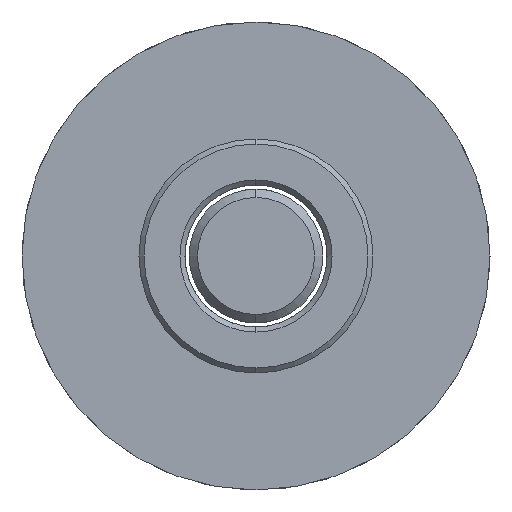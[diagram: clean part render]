
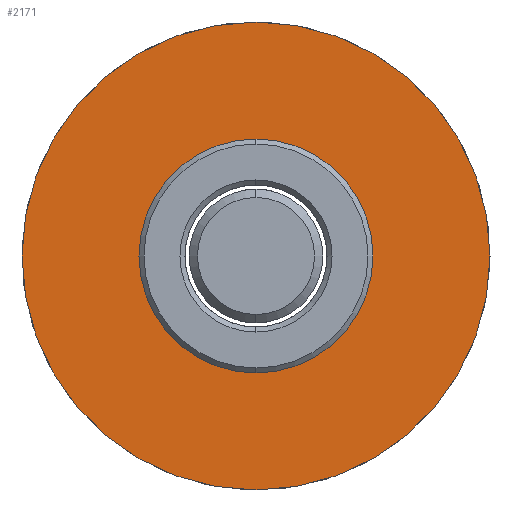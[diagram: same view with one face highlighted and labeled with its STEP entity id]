
A CAD part, left-side view. The second image highlights one B-rep face of the part: STEP entity #2171.
In plain terms, the highlighted planar face has unit normal (-1, 0, 0).
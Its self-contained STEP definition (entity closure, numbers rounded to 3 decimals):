
#76 = FACE_BOUND ( 'NONE', #2484, .T. ) ;
#245 = CIRCLE ( 'NONE', #2219, 7. ) ;
#292 = CIRCLE ( 'NONE', #2945, 14. ) ;
#382 = CARTESIAN_POINT ( 'NONE',  ( 4., 0., 0. ) ) ;
#537 = ORIENTED_EDGE ( 'NONE', *, *, #733, .F. ) ;
#559 = CIRCLE ( 'NONE', #1393, 14. ) ;
#630 = DIRECTION ( 'NONE',  ( 0., 0., 1. ) ) ;
#733 = EDGE_CURVE ( 'NONE', #1696, #2803, #1225, .T. ) ;
#980 = EDGE_CURVE ( 'NONE', #1181, #1990, #292, .T. ) ;
#1017 = DIRECTION ( 'NONE',  ( 1., 0., 0. ) ) ;
#1020 = AXIS2_PLACEMENT_3D ( 'NONE', #1304, #2324, #1026 ) ;
#1026 = DIRECTION ( 'NONE',  ( 0., 0., 1. ) ) ;
#1050 = EDGE_LOOP ( 'NONE', ( #2436, #3013 ) ) ;
#1181 = VERTEX_POINT ( 'NONE', #2287 ) ;
#1199 = CARTESIAN_POINT ( 'NONE',  ( 4., 0., 0. ) ) ;
#1214 = DIRECTION ( 'NONE',  ( 0., 0., 1. ) ) ;
#1225 = CIRCLE ( 'NONE', #1020, 7. ) ;
#1304 = CARTESIAN_POINT ( 'NONE',  ( 4., 0., 0. ) ) ;
#1342 = CARTESIAN_POINT ( 'NONE',  ( 4., 0., 0. ) ) ;
#1361 = EDGE_CURVE ( 'NONE', #1990, #1181, #559, .T. ) ;
#1393 = AXIS2_PLACEMENT_3D ( 'NONE', #1342, #2375, #1865 ) ;
#1513 = CARTESIAN_POINT ( 'NONE',  ( 4., 7., 0. ) ) ;
#1696 = VERTEX_POINT ( 'NONE', #1775 ) ;
#1775 = CARTESIAN_POINT ( 'NONE',  ( 4., 0., -7. ) ) ;
#1815 = EDGE_CURVE ( 'NONE', #2803, #1696, #245, .T. ) ;
#1865 = DIRECTION ( 'NONE',  ( 0., 0., 1. ) ) ;
#1990 = VERTEX_POINT ( 'NONE', #2723 ) ;
#2067 = AXIS2_PLACEMENT_3D ( 'NONE', #1513, #1017, #3003 ) ;
#2171 = ADVANCED_FACE ( 'NONE', ( #76, #3048 ), #2264, .F. ) ;
#2219 = AXIS2_PLACEMENT_3D ( 'NONE', #382, #2862, #630 ) ;
#2264 = PLANE ( 'NONE',  #2067 ) ;
#2287 = CARTESIAN_POINT ( 'NONE',  ( 4., 0., 14. ) ) ;
#2324 = DIRECTION ( 'NONE',  ( -1., 0., 0. ) ) ;
#2374 = CARTESIAN_POINT ( 'NONE',  ( 4., 0., 7. ) ) ;
#2375 = DIRECTION ( 'NONE',  ( -1., 0., 0. ) ) ;
#2436 = ORIENTED_EDGE ( 'NONE', *, *, #980, .T. ) ;
#2484 = EDGE_LOOP ( 'NONE', ( #2702, #537 ) ) ;
#2702 = ORIENTED_EDGE ( 'NONE', *, *, #1815, .F. ) ;
#2723 = CARTESIAN_POINT ( 'NONE',  ( 4., 0., -14. ) ) ;
#2803 = VERTEX_POINT ( 'NONE', #2374 ) ;
#2862 = DIRECTION ( 'NONE',  ( -1., 0., 0. ) ) ;
#2945 = AXIS2_PLACEMENT_3D ( 'NONE', #1199, #3169, #1214 ) ;
#3003 = DIRECTION ( 'NONE',  ( 0., 0., -1. ) ) ;
#3013 = ORIENTED_EDGE ( 'NONE', *, *, #1361, .T. ) ;
#3048 = FACE_OUTER_BOUND ( 'NONE', #1050, .T. ) ;
#3169 = DIRECTION ( 'NONE',  ( -1., 0., 0. ) ) ;
